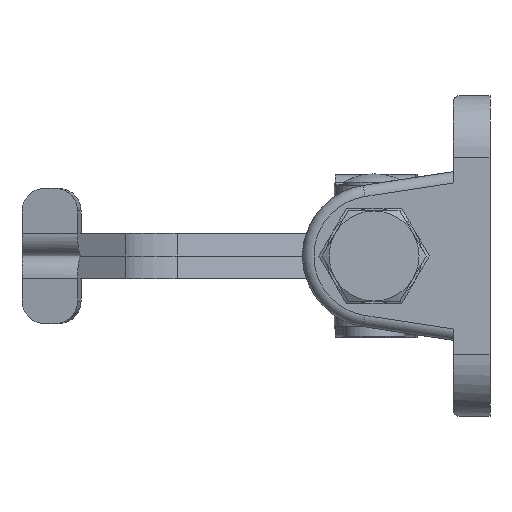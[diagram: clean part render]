
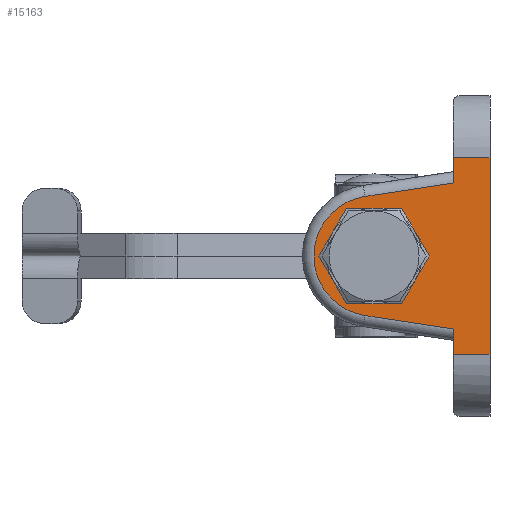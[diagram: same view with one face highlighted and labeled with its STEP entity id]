
A CAD part, left-side view. The second image highlights one B-rep face of the part: STEP entity #15163.
In plain terms, the highlighted planar face has unit normal (-1, 0, 0).
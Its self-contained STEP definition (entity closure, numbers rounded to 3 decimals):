
#79 = DIRECTION ( 'NONE',  ( 1., 0., 0. ) ) ;
#341 = CARTESIAN_POINT ( 'NONE',  ( -64., 20.6, -8.2 ) ) ;
#435 = CIRCLE ( 'NONE', #17098, 8.2 ) ;
#490 = LINE ( 'NONE', #15100, #3611 ) ;
#612 = CIRCLE ( 'NONE', #9485, 8.2 ) ;
#1607 = VERTEX_POINT ( 'NONE', #15403 ) ;
#2442 = DIRECTION ( 'NONE',  ( 1., 0., 0. ) ) ;
#2596 = CARTESIAN_POINT ( 'NONE',  ( -64., 22.215, -10.577 ) ) ;
#2778 = CARTESIAN_POINT ( 'NONE',  ( -64., 20.6, 0. ) ) ;
#2808 = EDGE_CURVE ( 'NONE', #1607, #6370, #16812, .T. ) ;
#3020 = VECTOR ( 'NONE', #12936, 1000. ) ;
#3094 = CARTESIAN_POINT ( 'NONE',  ( -64., 6.5, -12.977 ) ) ;
#3611 = VECTOR ( 'NONE', #12462, 1000. ) ;
#3803 = EDGE_CURVE ( 'NONE', #7337, #16759, #490, .T. ) ;
#3990 = CARTESIAN_POINT ( 'NONE',  ( -64., 0., 28.5 ) ) ;
#4004 = CARTESIAN_POINT ( 'NONE',  ( -64., 0., 17.5 ) ) ;
#4119 = DIRECTION ( 'NONE',  ( 0., 0., -1. ) ) ;
#4424 = ORIENTED_EDGE ( 'NONE', *, *, #16678, .T. ) ;
#4886 = AXIS2_PLACEMENT_3D ( 'NONE', #6836, #16200, #8167 ) ;
#5100 = CARTESIAN_POINT ( 'NONE',  ( -64., 6.5, 28.5 ) ) ;
#5467 = CARTESIAN_POINT ( 'NONE',  ( -64., 6.5, 28.5 ) ) ;
#5611 = AXIS2_PLACEMENT_3D ( 'NONE', #5100, #2442, #7770 ) ;
#5682 = EDGE_CURVE ( 'NONE', #8315, #16759, #8356, .T. ) ;
#5686 = LINE ( 'NONE', #17033, #12380 ) ;
#5734 = FACE_OUTER_BOUND ( 'NONE', #14567, .T. ) ;
#6235 = EDGE_CURVE ( 'NONE', #14103, #7337, #10032, .T. ) ;
#6280 = DIRECTION ( 'NONE',  ( 0., 0.989, -0.151 ) ) ;
#6316 = CIRCLE ( 'NONE', #4886, 10.7 ) ;
#6370 = VERTEX_POINT ( 'NONE', #3094 ) ;
#6449 = PLANE ( 'NONE',  #5611 ) ;
#6567 = VECTOR ( 'NONE', #16876, 1000. ) ;
#6792 = VERTEX_POINT ( 'NONE', #11918 ) ;
#6836 = CARTESIAN_POINT ( 'NONE',  ( -64., 20.6, 0. ) ) ;
#6998 = LINE ( 'NONE', #10233, #3020 ) ;
#7337 = VERTEX_POINT ( 'NONE', #4004 ) ;
#7364 = EDGE_CURVE ( 'NONE', #6792, #11516, #612, .T. ) ;
#7376 = ORIENTED_EDGE ( 'NONE', *, *, #7364, .T. ) ;
#7565 = CARTESIAN_POINT ( 'NONE',  ( -64., 6.5, 28.5 ) ) ;
#7598 = ORIENTED_EDGE ( 'NONE', *, *, #15066, .T. ) ;
#7770 = DIRECTION ( 'NONE',  ( 0., 0., -1. ) ) ;
#8054 = CARTESIAN_POINT ( 'NONE',  ( -64., 20.6, 0. ) ) ;
#8167 = DIRECTION ( 'NONE',  ( 0., 0., -1. ) ) ;
#8315 = VERTEX_POINT ( 'NONE', #9797 ) ;
#8356 = LINE ( 'NONE', #5467, #11542 ) ;
#8985 = DIRECTION ( 'NONE',  ( 0., -0.989, -0.151 ) ) ;
#9073 = ORIENTED_EDGE ( 'NONE', *, *, #10047, .T. ) ;
#9398 = DIRECTION ( 'NONE',  ( 0., 0., -1. ) ) ;
#9485 = AXIS2_PLACEMENT_3D ( 'NONE', #2778, #12115, #4119 ) ;
#9797 = CARTESIAN_POINT ( 'NONE',  ( -64., 6.5, 12.977 ) ) ;
#10032 = LINE ( 'NONE', #3990, #14018 ) ;
#10047 = EDGE_CURVE ( 'NONE', #11994, #6370, #5686, .T. ) ;
#10233 = CARTESIAN_POINT ( 'NONE',  ( -64., 6.5, -17.5 ) ) ;
#10309 = EDGE_CURVE ( 'NONE', #13284, #11994, #6316, .T. ) ;
#10961 = DIRECTION ( 'NONE',  ( 0., 0., 1. ) ) ;
#11516 = VERTEX_POINT ( 'NONE', #341 ) ;
#11542 = VECTOR ( 'NONE', #12130, 1000. ) ;
#11728 = ORIENTED_EDGE ( 'NONE', *, *, #12077, .T. ) ;
#11918 = CARTESIAN_POINT ( 'NONE',  ( -64., 20.6, 8.2 ) ) ;
#11994 = VERTEX_POINT ( 'NONE', #2596 ) ;
#12026 = ORIENTED_EDGE ( 'NONE', *, *, #10309, .T. ) ;
#12077 = EDGE_CURVE ( 'NONE', #11516, #6792, #435, .T. ) ;
#12115 = DIRECTION ( 'NONE',  ( 1., 0., 0. ) ) ;
#12130 = DIRECTION ( 'NONE',  ( 0., 0., 1. ) ) ;
#12380 = VECTOR ( 'NONE', #8985, 1000. ) ;
#12462 = DIRECTION ( 'NONE',  ( 0., 1., 0. ) ) ;
#12581 = LINE ( 'NONE', #12955, #15750 ) ;
#12936 = DIRECTION ( 'NONE',  ( 0., -1., 0. ) ) ;
#12955 = CARTESIAN_POINT ( 'NONE',  ( -64., 22.215, 10.577 ) ) ;
#13187 = EDGE_LOOP ( 'NONE', ( #7376, #11728 ) ) ;
#13284 = VERTEX_POINT ( 'NONE', #14317 ) ;
#14018 = VECTOR ( 'NONE', #10961, 1000. ) ;
#14103 = VERTEX_POINT ( 'NONE', #15114 ) ;
#14317 = CARTESIAN_POINT ( 'NONE',  ( -64., 22.215, 10.577 ) ) ;
#14366 = CARTESIAN_POINT ( 'NONE',  ( -64., 6.5, 17.5 ) ) ;
#14567 = EDGE_LOOP ( 'NONE', ( #15640, #4424, #12026, #9073, #15827, #7598, #16123, #16431 ) ) ;
#15066 = EDGE_CURVE ( 'NONE', #1607, #14103, #6998, .T. ) ;
#15100 = CARTESIAN_POINT ( 'NONE',  ( -64., 6.5, 17.5 ) ) ;
#15114 = CARTESIAN_POINT ( 'NONE',  ( -64., 0., -17.5 ) ) ;
#15163 = ADVANCED_FACE ( 'NONE', ( #16009, #5734 ), #6449, .F. ) ;
#15403 = CARTESIAN_POINT ( 'NONE',  ( -64., 6.5, -17.5 ) ) ;
#15640 = ORIENTED_EDGE ( 'NONE', *, *, #5682, .F. ) ;
#15750 = VECTOR ( 'NONE', #6280, 1000. ) ;
#15827 = ORIENTED_EDGE ( 'NONE', *, *, #2808, .F. ) ;
#16009 = FACE_BOUND ( 'NONE', #13187, .T. ) ;
#16123 = ORIENTED_EDGE ( 'NONE', *, *, #6235, .T. ) ;
#16200 = DIRECTION ( 'NONE',  ( -1., 0., 0. ) ) ;
#16431 = ORIENTED_EDGE ( 'NONE', *, *, #3803, .T. ) ;
#16678 = EDGE_CURVE ( 'NONE', #8315, #13284, #12581, .T. ) ;
#16759 = VERTEX_POINT ( 'NONE', #14366 ) ;
#16812 = LINE ( 'NONE', #7565, #6567 ) ;
#16876 = DIRECTION ( 'NONE',  ( 0., 0., 1. ) ) ;
#17033 = CARTESIAN_POINT ( 'NONE',  ( -64., 6.198, -13.023 ) ) ;
#17098 = AXIS2_PLACEMENT_3D ( 'NONE', #8054, #79, #9398 ) ;
